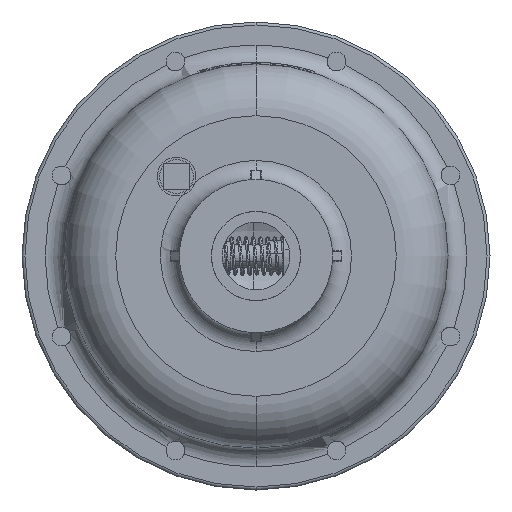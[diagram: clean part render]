
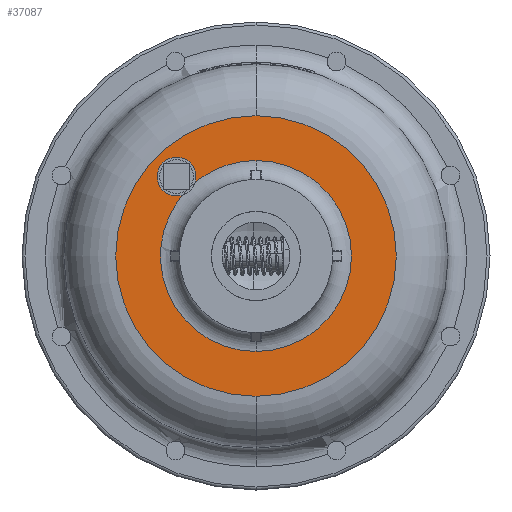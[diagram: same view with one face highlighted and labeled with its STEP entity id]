
A CAD part, front view. The second image highlights one B-rep face of the part: STEP entity #37087.
In plain terms, the highlighted planar face has unit normal (0, -1, 0).
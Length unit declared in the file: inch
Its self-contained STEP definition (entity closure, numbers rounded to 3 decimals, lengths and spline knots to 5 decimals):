
#990 = DIRECTION ( 'NONE',  ( 0., 1., 0. ) ) ;
#2208 = DIRECTION ( 'NONE',  ( 0., 1., 0. ) ) ;
#3432 = DIRECTION ( 'NONE',  ( 0., -1., 0. ) ) ;
#6337 = ORIENTED_EDGE ( 'NONE', *, *, #22474, .F. ) ;
#6645 = ORIENTED_EDGE ( 'NONE', *, *, #11970, .F. ) ;
#7677 = DIRECTION ( 'NONE',  ( 0., -1., 0. ) ) ;
#7990 = CARTESIAN_POINT ( 'NONE',  ( -1.06066, -6.31969, 1.06066 ) ) ;
#10664 = PLANE ( 'NONE',  #17698 ) ;
#11970 = EDGE_CURVE ( 'NONE', #96573, #59233, #30622, .T. ) ;
#15175 = EDGE_CURVE ( 'NONE', #27655, #68075, #32020, .T. ) ;
#17212 = ORIENTED_EDGE ( 'NONE', *, *, #15175, .T. ) ;
#17369 = CARTESIAN_POINT ( 'NONE',  ( 0., -6.31969, -1.27559 ) ) ;
#17698 = AXIS2_PLACEMENT_3D ( 'NONE', #73283, #3432, #27575 ) ;
#22474 = EDGE_CURVE ( 'NONE', #27655, #29759, #76071, .T. ) ;
#23496 = DIRECTION ( 'NONE',  ( 0., 1., 0. ) ) ;
#25305 = CARTESIAN_POINT ( 'NONE',  ( 0., -6.31969, 0. ) ) ;
#27575 = DIRECTION ( 'NONE',  ( 0., 0., -1. ) ) ;
#27655 = VERTEX_POINT ( 'NONE', #87960 ) ;
#29759 = VERTEX_POINT ( 'NONE', #17369 ) ;
#30622 = CIRCLE ( 'NONE', #74907, 1.27559 ) ;
#31181 = ORIENTED_EDGE ( 'NONE', *, *, #70279, .F. ) ;
#32020 = CIRCLE ( 'NONE', #66492, 0.22539 ) ;
#32292 = VERTEX_POINT ( 'NONE', #54870 ) ;
#33487 = DIRECTION ( 'NONE',  ( -1., 0., 0. ) ) ;
#33497 = DIRECTION ( 'NONE',  ( -1., 0., 0. ) ) ;
#34557 = VERTEX_POINT ( 'NONE', #74395 ) ;
#37087 = ADVANCED_FACE ( 'NONE', ( #57868, #58882 ), #10664, .T. ) ;
#37918 = DIRECTION ( 'NONE',  ( -1., 0., 0. ) ) ;
#38361 = EDGE_CURVE ( 'NONE', #32292, #101011, #45152, .T. ) ;
#41178 = DIRECTION ( 'NONE',  ( 0., -1., 0. ) ) ;
#41946 = EDGE_CURVE ( 'NONE', #34557, #59233, #42327, .T. ) ;
#42217 = CARTESIAN_POINT ( 'NONE',  ( 0., -6.31969, 0. ) ) ;
#42327 = CIRCLE ( 'NONE', #45616, 0.22539 ) ;
#45152 = CIRCLE ( 'NONE', #66514, 1.87402 ) ;
#45616 = AXIS2_PLACEMENT_3D ( 'NONE', #85590, #23496, #46565 ) ;
#46565 = DIRECTION ( 'NONE',  ( 1., 0., 0. ) ) ;
#47191 = DIRECTION ( 'NONE',  ( 1., 0., 0. ) ) ;
#47308 = EDGE_CURVE ( 'NONE', #68075, #34557, #86965, .T. ) ;
#49771 = ORIENTED_EDGE ( 'NONE', *, *, #41946, .T. ) ;
#54756 = AXIS2_PLACEMENT_3D ( 'NONE', #25305, #41178, #87930 ) ;
#54870 = CARTESIAN_POINT ( 'NONE',  ( 0., -6.31969, 1.87402 ) ) ;
#57868 = FACE_OUTER_BOUND ( 'NONE', #91167, .T. ) ;
#58404 = CARTESIAN_POINT ( 'NONE',  ( 0., -6.31969, 1.27559 ) ) ;
#58743 = DIRECTION ( 'NONE',  ( 0., 1., 0. ) ) ;
#58882 = FACE_BOUND ( 'NONE', #99368, .T. ) ;
#59233 = VERTEX_POINT ( 'NONE', #71780 ) ;
#59529 = CARTESIAN_POINT ( 'NONE',  ( 0., -6.31969, 0. ) ) ;
#60225 = ORIENTED_EDGE ( 'NONE', *, *, #47308, .T. ) ;
#61281 = ORIENTED_EDGE ( 'NONE', *, *, #96296, .F. ) ;
#62484 = CARTESIAN_POINT ( 'NONE',  ( -1.28605, -6.31969, 1.06066 ) ) ;
#63597 = CARTESIAN_POINT ( 'NONE',  ( 0., -6.31969, -1.87402 ) ) ;
#63636 = CARTESIAN_POINT ( 'NONE',  ( 0., -6.31969, 0. ) ) ;
#63844 = DIRECTION ( 'NONE',  ( 0., -1., 0. ) ) ;
#66492 = AXIS2_PLACEMENT_3D ( 'NONE', #7990, #58743, #82334 ) ;
#66514 = AXIS2_PLACEMENT_3D ( 'NONE', #42217, #2208, #33497 ) ;
#67713 = CIRCLE ( 'NONE', #80826, 1.87402 ) ;
#68075 = VERTEX_POINT ( 'NONE', #62484 ) ;
#70279 = EDGE_CURVE ( 'NONE', #29759, #96573, #74122, .T. ) ;
#70625 = AXIS2_PLACEMENT_3D ( 'NONE', #101093, #990, #47191 ) ;
#70632 = ORIENTED_EDGE ( 'NONE', *, *, #38361, .F. ) ;
#71016 = CARTESIAN_POINT ( 'NONE',  ( 0., -6.31969, 0. ) ) ;
#71780 = CARTESIAN_POINT ( 'NONE',  ( -0.88815, -6.31969, 0.91559 ) ) ;
#73283 = CARTESIAN_POINT ( 'NONE',  ( -0.93701, -6.31969, 0. ) ) ;
#74122 = CIRCLE ( 'NONE', #80647, 1.27559 ) ;
#74395 = CARTESIAN_POINT ( 'NONE',  ( -0.83527, -6.31969, 1.06066 ) ) ;
#74907 = AXIS2_PLACEMENT_3D ( 'NONE', #71016, #63844, #33487 ) ;
#76071 = CIRCLE ( 'NONE', #54756, 1.27559 ) ;
#80647 = AXIS2_PLACEMENT_3D ( 'NONE', #63636, #7677, #37918 ) ;
#80826 = AXIS2_PLACEMENT_3D ( 'NONE', #59529, #98536, #90826 ) ;
#82334 = DIRECTION ( 'NONE',  ( 1., 0., 0. ) ) ;
#85590 = CARTESIAN_POINT ( 'NONE',  ( -1.06066, -6.31969, 1.06066 ) ) ;
#86965 = CIRCLE ( 'NONE', #70625, 0.22539 ) ;
#87930 = DIRECTION ( 'NONE',  ( -1., 0., 0. ) ) ;
#87960 = CARTESIAN_POINT ( 'NONE',  ( -0.91559, -6.31969, 0.88815 ) ) ;
#90826 = DIRECTION ( 'NONE',  ( -1., 0., 0. ) ) ;
#91167 = EDGE_LOOP ( 'NONE', ( #70632, #61281 ) ) ;
#96296 = EDGE_CURVE ( 'NONE', #101011, #32292, #67713, .T. ) ;
#96573 = VERTEX_POINT ( 'NONE', #58404 ) ;
#98536 = DIRECTION ( 'NONE',  ( 0., 1., 0. ) ) ;
#99368 = EDGE_LOOP ( 'NONE', ( #17212, #60225, #49771, #6645, #31181, #6337 ) ) ;
#101011 = VERTEX_POINT ( 'NONE', #63597 ) ;
#101093 = CARTESIAN_POINT ( 'NONE',  ( -1.06066, -6.31969, 1.06066 ) ) ;
